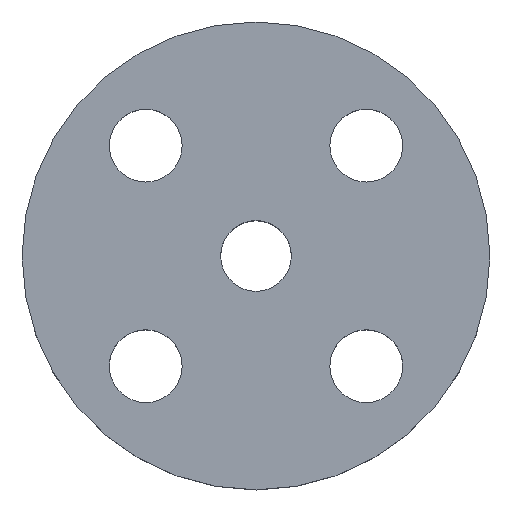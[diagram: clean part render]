
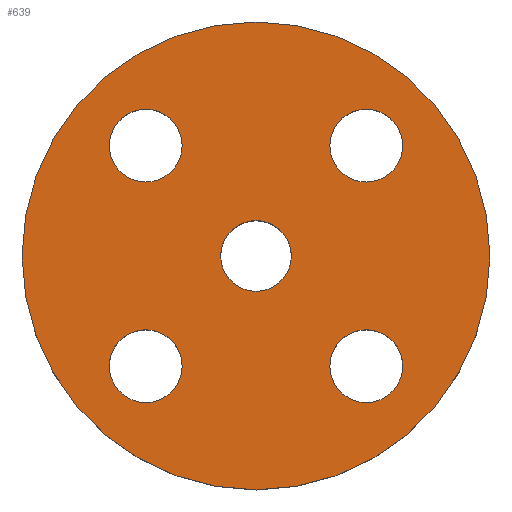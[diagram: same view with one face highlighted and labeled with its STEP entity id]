
A CAD part, top view. The second image highlights one B-rep face of the part: STEP entity #639.
In plain terms, the highlighted planar face has unit normal (0, 0, 1).
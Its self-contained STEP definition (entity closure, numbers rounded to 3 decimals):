
#11 = CIRCLE ( 'NONE', #123, 45. ) ;
#14 = AXIS2_PLACEMENT_3D ( 'NONE', #350, #374, #375 ) ;
#15 = CIRCLE ( 'NONE', #16, 7. ) ;
#16 = AXIS2_PLACEMENT_3D ( 'NONE', #387, #388, #389 ) ;
#20 = CIRCLE ( 'NONE', #261, 7. ) ;
#37 = CIRCLE ( 'NONE', #402, 6.8 ) ;
#38 = EDGE_CURVE ( 'NONE', #621, #436, #11, .T. ) ;
#43 = CIRCLE ( 'NONE', #48, 7. ) ;
#44 = EDGE_CURVE ( 'NONE', #469, #630, #37, .T. ) ;
#46 = AXIS2_PLACEMENT_3D ( 'NONE', #291, #292, #294 ) ;
#48 = AXIS2_PLACEMENT_3D ( 'NONE', #706, #707, #708 ) ;
#50 = AXIS2_PLACEMENT_3D ( 'NONE', #239, #224, #225 ) ;
#77 = EDGE_CURVE ( 'NONE', #627, #633, #43, .T. ) ;
#85 = CIRCLE ( 'NONE', #92, 7. ) ;
#92 = AXIS2_PLACEMENT_3D ( 'NONE', #393, #394, #395 ) ;
#94 = EDGE_CURVE ( 'NONE', #518, #448, #289, .T. ) ;
#123 = AXIS2_PLACEMENT_3D ( 'NONE', #670, #671, #672 ) ;
#140 = DIRECTION ( 'NONE',  ( 1., 0., 0. ) ) ;
#141 = DIRECTION ( 'NONE',  ( 0., 0., 1. ) ) ;
#142 = CARTESIAN_POINT ( 'NONE',  ( 0., 0., 0. ) ) ;
#144 = PLANE ( 'NONE',  #153 ) ;
#145 = AXIS2_PLACEMENT_3D ( 'NONE', #194, #199, #197 ) ;
#146 = FACE_OUTER_BOUND ( 'NONE', #450, .T. ) ;
#148 = FACE_BOUND ( 'NONE', #452, .T. ) ;
#149 = FACE_BOUND ( 'NONE', #458, .T. ) ;
#150 = FACE_BOUND ( 'NONE', #454, .T. ) ;
#151 = FACE_BOUND ( 'NONE', #574, .T. ) ;
#152 = FACE_BOUND ( 'NONE', #445, .T. ) ;
#153 = AXIS2_PLACEMENT_3D ( 'NONE', #142, #141, #140 ) ;
#157 = CARTESIAN_POINT ( 'NONE',  ( 14.213, 21.213, 0. ) ) ;
#159 = CARTESIAN_POINT ( 'NONE',  ( -6.8, 0., 0. ) ) ;
#161 = CIRCLE ( 'NONE', #46, 6.8 ) ;
#168 = CARTESIAN_POINT ( 'NONE',  ( -14.213, 21.213, 0. ) ) ;
#169 = CARTESIAN_POINT ( 'NONE',  ( 28.213, 21.213, 0. ) ) ;
#171 = CARTESIAN_POINT ( 'NONE',  ( -28.213, 21.213, 0. ) ) ;
#174 = CARTESIAN_POINT ( 'NONE',  ( 45., 0., 0. ) ) ;
#193 = CARTESIAN_POINT ( 'NONE',  ( 6.8, 0., 0. ) ) ;
#194 = CARTESIAN_POINT ( 'NONE',  ( 0., 0., 0. ) ) ;
#197 = DIRECTION ( 'NONE',  ( 1., 0., 0. ) ) ;
#199 = DIRECTION ( 'NONE',  ( 0., 0., 1. ) ) ;
#214 = AXIS2_PLACEMENT_3D ( 'NONE', #715, #719, #720 ) ;
#224 = DIRECTION ( 'NONE',  ( 0., 0., -1. ) ) ;
#225 = DIRECTION ( 'NONE',  ( -1., 0., 0. ) ) ;
#237 = CARTESIAN_POINT ( 'NONE',  ( 14.213, -21.213, 0. ) ) ;
#239 = CARTESIAN_POINT ( 'NONE',  ( -21.213, -21.213, 0. ) ) ;
#244 = DIRECTION ( 'NONE',  ( -1., 0., 0. ) ) ;
#246 = EDGE_CURVE ( 'NONE', #630, #469, #161, .T. ) ;
#247 = DIRECTION ( 'NONE',  ( 0., 0., -1. ) ) ;
#258 = AXIS2_PLACEMENT_3D ( 'NONE', #272, #247, #244 ) ;
#261 = AXIS2_PLACEMENT_3D ( 'NONE', #390, #391, #392 ) ;
#264 = CIRCLE ( 'NONE', #145, 45. ) ;
#272 = CARTESIAN_POINT ( 'NONE',  ( 21.213, -21.213, 0. ) ) ;
#289 = CIRCLE ( 'NONE', #214, 7. ) ;
#291 = CARTESIAN_POINT ( 'NONE',  ( 0., 0., 0. ) ) ;
#292 = DIRECTION ( 'NONE',  ( 0., 0., -1. ) ) ;
#294 = DIRECTION ( 'NONE',  ( -1., 0., 0. ) ) ;
#350 = CARTESIAN_POINT ( 'NONE',  ( -21.213, -21.213, 0. ) ) ;
#361 = EDGE_CURVE ( 'NONE', #441, #440, #428, .T. ) ;
#374 = DIRECTION ( 'NONE',  ( 0., 0., -1. ) ) ;
#375 = DIRECTION ( 'NONE',  ( -1., 0., 0. ) ) ;
#382 = EDGE_CURVE ( 'NONE', #633, #627, #15, .T. ) ;
#387 = CARTESIAN_POINT ( 'NONE',  ( 21.213, 21.213, 0. ) ) ;
#388 = DIRECTION ( 'NONE',  ( 0., 0., -1. ) ) ;
#389 = DIRECTION ( 'NONE',  ( -1., 0., 0. ) ) ;
#390 = CARTESIAN_POINT ( 'NONE',  ( -21.213, 21.213, 0. ) ) ;
#391 = DIRECTION ( 'NONE',  ( 0., 0., -1. ) ) ;
#392 = DIRECTION ( 'NONE',  ( -1., 0., 0. ) ) ;
#393 = CARTESIAN_POINT ( 'NONE',  ( -21.213, 21.213, 0. ) ) ;
#394 = DIRECTION ( 'NONE',  ( 0., 0., -1. ) ) ;
#395 = DIRECTION ( 'NONE',  ( -1., 0., 0. ) ) ;
#402 = AXIS2_PLACEMENT_3D ( 'NONE', #673, #674, #675 ) ;
#408 = EDGE_CURVE ( 'NONE', #628, #625, #20, .T. ) ;
#409 = CARTESIAN_POINT ( 'NONE',  ( -45., 0., 0. ) ) ;
#411 = CARTESIAN_POINT ( 'NONE',  ( -28.213, -21.213, 0. ) ) ;
#412 = CARTESIAN_POINT ( 'NONE',  ( -14.213, -21.213, 0. ) ) ;
#413 = EDGE_CURVE ( 'NONE', #625, #628, #85, .T. ) ;
#424 = CARTESIAN_POINT ( 'NONE',  ( 28.213, -21.213, 0. ) ) ;
#428 = CIRCLE ( 'NONE', #14, 7. ) ;
#436 = VERTEX_POINT ( 'NONE', #409 ) ;
#440 = VERTEX_POINT ( 'NONE', #411 ) ;
#441 = VERTEX_POINT ( 'NONE', #412 ) ;
#445 = EDGE_LOOP ( 'NONE', ( #579, #580 ) ) ;
#448 = VERTEX_POINT ( 'NONE', #424 ) ;
#450 = EDGE_LOOP ( 'NONE', ( #593, #595 ) ) ;
#452 = EDGE_LOOP ( 'NONE', ( #590, #591 ) ) ;
#454 = EDGE_LOOP ( 'NONE', ( #584, #585 ) ) ;
#458 = EDGE_LOOP ( 'NONE', ( #586, #589 ) ) ;
#469 = VERTEX_POINT ( 'NONE', #193 ) ;
#482 = EDGE_CURVE ( 'NONE', #436, #621, #264, .T. ) ;
#490 = EDGE_CURVE ( 'NONE', #448, #518, #592, .T. ) ;
#518 = VERTEX_POINT ( 'NONE', #237 ) ;
#544 = EDGE_CURVE ( 'NONE', #440, #441, #737, .T. ) ;
#574 = EDGE_LOOP ( 'NONE', ( #582, #583 ) ) ;
#579 = ORIENTED_EDGE ( 'NONE', *, *, #490, .T. ) ;
#580 = ORIENTED_EDGE ( 'NONE', *, *, #94, .T. ) ;
#582 = ORIENTED_EDGE ( 'NONE', *, *, #361, .T. ) ;
#583 = ORIENTED_EDGE ( 'NONE', *, *, #544, .T. ) ;
#584 = ORIENTED_EDGE ( 'NONE', *, *, #408, .T. ) ;
#585 = ORIENTED_EDGE ( 'NONE', *, *, #413, .T. ) ;
#586 = ORIENTED_EDGE ( 'NONE', *, *, #77, .T. ) ;
#589 = ORIENTED_EDGE ( 'NONE', *, *, #382, .T. ) ;
#590 = ORIENTED_EDGE ( 'NONE', *, *, #246, .T. ) ;
#591 = ORIENTED_EDGE ( 'NONE', *, *, #44, .T. ) ;
#592 = CIRCLE ( 'NONE', #258, 7. ) ;
#593 = ORIENTED_EDGE ( 'NONE', *, *, #38, .T. ) ;
#595 = ORIENTED_EDGE ( 'NONE', *, *, #482, .T. ) ;
#621 = VERTEX_POINT ( 'NONE', #174 ) ;
#625 = VERTEX_POINT ( 'NONE', #171 ) ;
#627 = VERTEX_POINT ( 'NONE', #169 ) ;
#628 = VERTEX_POINT ( 'NONE', #168 ) ;
#630 = VERTEX_POINT ( 'NONE', #159 ) ;
#633 = VERTEX_POINT ( 'NONE', #157 ) ;
#639 = ADVANCED_FACE ( 'NONE', ( #152, #151, #150, #149, #148, #146 ), #144, .T. ) ;
#670 = CARTESIAN_POINT ( 'NONE',  ( 0., 0., 0. ) ) ;
#671 = DIRECTION ( 'NONE',  ( 0., 0., 1. ) ) ;
#672 = DIRECTION ( 'NONE',  ( 1., 0., 0. ) ) ;
#673 = CARTESIAN_POINT ( 'NONE',  ( 0., 0., 0. ) ) ;
#674 = DIRECTION ( 'NONE',  ( 0., 0., -1. ) ) ;
#675 = DIRECTION ( 'NONE',  ( -1., 0., 0. ) ) ;
#706 = CARTESIAN_POINT ( 'NONE',  ( 21.213, 21.213, 0. ) ) ;
#707 = DIRECTION ( 'NONE',  ( 0., 0., -1. ) ) ;
#708 = DIRECTION ( 'NONE',  ( -1., 0., 0. ) ) ;
#715 = CARTESIAN_POINT ( 'NONE',  ( 21.213, -21.213, 0. ) ) ;
#719 = DIRECTION ( 'NONE',  ( 0., 0., -1. ) ) ;
#720 = DIRECTION ( 'NONE',  ( -1., 0., 0. ) ) ;
#737 = CIRCLE ( 'NONE', #50, 7. ) ;
